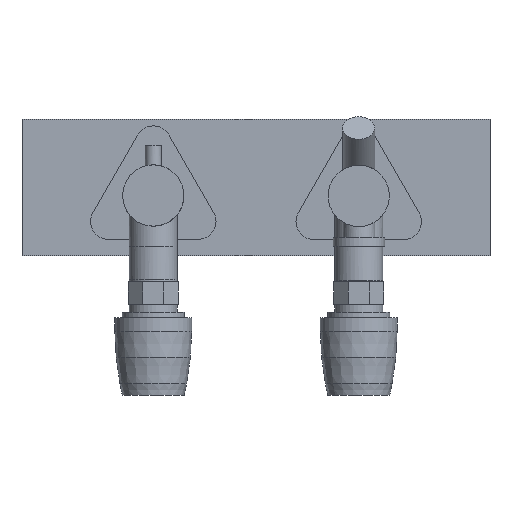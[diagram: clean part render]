
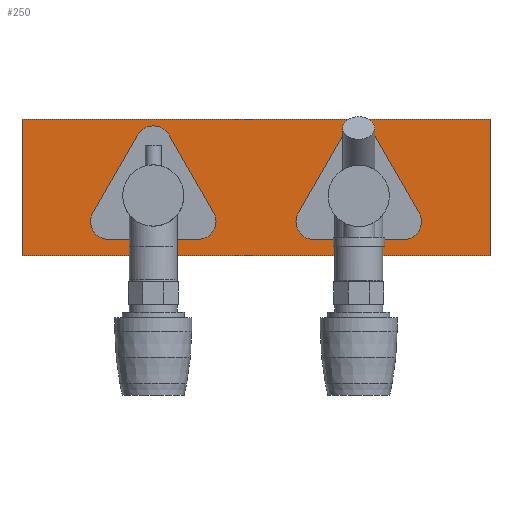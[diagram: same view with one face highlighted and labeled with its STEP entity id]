
A CAD part, front view. The second image highlights one B-rep face of the part: STEP entity #250.
In plain terms, the highlighted planar face has unit normal (0, -1, 0).
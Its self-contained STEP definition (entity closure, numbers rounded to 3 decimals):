
#250=ADVANCED_FACE('',(#380),#381,.T.);
#380=FACE_OUTER_BOUND('',#664,.T.);
#381=PLANE('',#665);
#664=EDGE_LOOP('',(#953,#954,#955,#956));
#665=AXIS2_PLACEMENT_3D('',#957,#958,#959);
#953=ORIENTED_EDGE('',*,*,#1616,.T.);
#954=ORIENTED_EDGE('',*,*,#1617,.T.);
#955=ORIENTED_EDGE('',*,*,#1614,.F.);
#956=ORIENTED_EDGE('',*,*,#1618,.T.);
#957=CARTESIAN_POINT('',(102.5,0.0,30.0));
#958=DIRECTION('',(0.0,-1.0,0.0));
#959=DIRECTION('',(0.0,0.0,-1.0));
#1614=EDGE_CURVE('',#1793,#1795,#1796,.T.);
#1616=EDGE_CURVE('',#1798,#1799,#1800,.T.);
#1617=EDGE_CURVE('',#1799,#1795,#1801,.T.);
#1618=EDGE_CURVE('',#1793,#1798,#1802,.T.);
#1793=VERTEX_POINT('',#2078);
#1795=VERTEX_POINT('',#2081);
#1796=LINE('',#2082,#2083);
#1798=VERTEX_POINT('',#2086);
#1799=VERTEX_POINT('',#2087);
#1800=LINE('',#2088,#2089);
#1801=LINE('',#2090,#2091);
#1802=LINE('',#2092,#2093);
#2078=CARTESIAN_POINT('',(102.5,0.0,-30.0));
#2081=CARTESIAN_POINT('',(-102.5,0.0,-30.0));
#2082=CARTESIAN_POINT('',(102.5,0.0,-30.0));
#2083=VECTOR('',#2841,1.0);
#2086=CARTESIAN_POINT('',(102.5,0.0,30.0));
#2087=CARTESIAN_POINT('',(-102.5,0.0,30.0));
#2088=CARTESIAN_POINT('',(102.5,0.0,30.0));
#2089=VECTOR('',#2843,1.0);
#2090=CARTESIAN_POINT('',(-102.5,0.0,30.0));
#2091=VECTOR('',#2844,1.0);
#2092=CARTESIAN_POINT('',(102.5,0.0,-30.0));
#2093=VECTOR('',#2845,1.0);
#2841=DIRECTION('',(-1.0,0.0,0.0));
#2843=DIRECTION('',(-1.0,0.0,0.0));
#2844=DIRECTION('',(0.0,0.0,-1.0));
#2845=DIRECTION('',(0.0,0.0,1.0));
